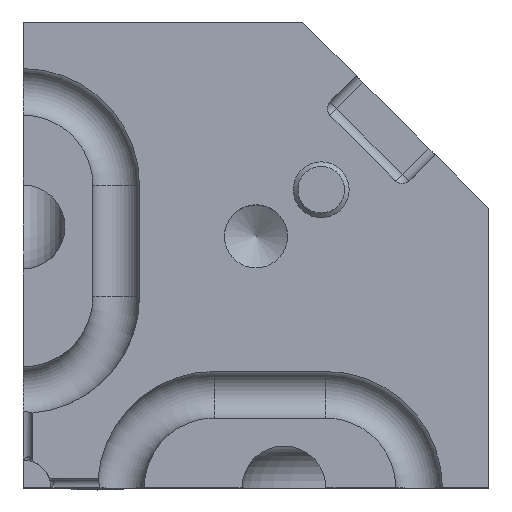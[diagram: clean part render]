
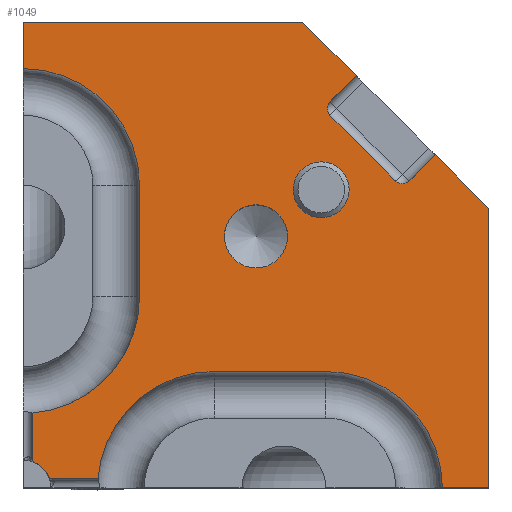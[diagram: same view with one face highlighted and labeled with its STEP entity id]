
A CAD part, top view. The second image highlights one B-rep face of the part: STEP entity #1049.
In plain terms, the highlighted planar face has unit normal (0, 0, 1).
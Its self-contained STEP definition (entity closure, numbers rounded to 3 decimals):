
#55=FACE_BOUND('',#201,.T.);
#56=FACE_BOUND('',#202,.T.);
#64=CIRCLE('',#1130,12.5);
#65=CIRCLE('',#1131,12.5);
#66=CIRCLE('',#1132,3.);
#67=CIRCLE('',#1133,12.5);
#68=CIRCLE('',#1134,12.5);
#69=CIRCLE('',#1135,1.);
#70=CIRCLE('',#1136,1.);
#71=CIRCLE('',#1137,3.39);
#72=CIRCLE('',#1138,3.);
#135=FACE_OUTER_BOUND('',#200,.T.);
#200=EDGE_LOOP('',(#713,#714,#715,#716,#717,#718,#719,#720,#721,#722,#723,
#724,#725,#726,#727,#728,#729,#730,#731,#732,#733,#734));
#201=EDGE_LOOP('',(#735));
#202=EDGE_LOOP('',(#736));
#272=B_SPLINE_CURVE_WITH_KNOTS('',3,(#1634,#1635,#1636,#1637,#1638,#1639,
#1640),.UNSPECIFIED.,.F.,.F.,(4,3,4),(-0.057,-0.028,
0.),.UNSPECIFIED.);
#273=B_SPLINE_CURVE_WITH_KNOTS('',3,(#1644,#1645,#1646,#1647,#1648,#1649,
#1650),.UNSPECIFIED.,.F.,.F.,(4,3,4),(-0.057,-0.028,
0.),.UNSPECIFIED.);
#285=LINE('',#1611,#363);
#286=LINE('',#1614,#364);
#291=LINE('',#1628,#369);
#292=LINE('',#1632,#370);
#293=LINE('',#1652,#371);
#294=LINE('',#1656,#372);
#295=LINE('',#1660,#373);
#296=LINE('',#1662,#374);
#297=LINE('',#1664,#375);
#298=LINE('',#1666,#376);
#299=LINE('',#1670,#377);
#300=LINE('',#1674,#378);
#301=LINE('',#1675,#379);
#363=VECTOR('',#1263,10.);
#364=VECTOR('',#1266,10.);
#369=VECTOR('',#1277,10.);
#370=VECTOR('',#1280,10.);
#371=VECTOR('',#1283,10.);
#372=VECTOR('',#1286,10.);
#373=VECTOR('',#1289,10.);
#374=VECTOR('',#1290,10.);
#375=VECTOR('',#1291,10.);
#376=VECTOR('',#1292,10.);
#377=VECTOR('',#1295,10.);
#378=VECTOR('',#1298,10.);
#379=VECTOR('',#1299,10.);
#439=VERTEX_POINT('',#1601);
#442=VERTEX_POINT('',#1606);
#443=VERTEX_POINT('',#1613);
#448=VERTEX_POINT('',#1625);
#449=VERTEX_POINT('',#1627);
#450=VERTEX_POINT('',#1629);
#451=VERTEX_POINT('',#1631);
#452=VERTEX_POINT('',#1633);
#453=VERTEX_POINT('',#1641);
#454=VERTEX_POINT('',#1643);
#455=VERTEX_POINT('',#1651);
#456=VERTEX_POINT('',#1653);
#457=VERTEX_POINT('',#1655);
#458=VERTEX_POINT('',#1657);
#459=VERTEX_POINT('',#1659);
#460=VERTEX_POINT('',#1661);
#461=VERTEX_POINT('',#1663);
#462=VERTEX_POINT('',#1665);
#463=VERTEX_POINT('',#1667);
#464=VERTEX_POINT('',#1669);
#465=VERTEX_POINT('',#1671);
#466=VERTEX_POINT('',#1673);
#467=VERTEX_POINT('',#1676);
#468=VERTEX_POINT('',#1678);
#545=EDGE_CURVE('',#442,#439,#285,.T.);
#546=EDGE_CURVE('',#443,#439,#286,.T.);
#552=EDGE_CURVE('',#442,#448,#64,.T.);
#553=EDGE_CURVE('',#448,#449,#291,.T.);
#554=EDGE_CURVE('',#449,#450,#65,.T.);
#555=EDGE_CURVE('',#450,#451,#292,.T.);
#556=EDGE_CURVE('',#451,#452,#272,.T.);
#557=EDGE_CURVE('',#452,#453,#66,.T.);
#558=EDGE_CURVE('',#453,#454,#273,.T.);
#559=EDGE_CURVE('',#454,#455,#293,.T.);
#560=EDGE_CURVE('',#455,#456,#67,.T.);
#561=EDGE_CURVE('',#456,#457,#294,.T.);
#562=EDGE_CURVE('',#457,#458,#68,.T.);
#563=EDGE_CURVE('',#459,#458,#295,.T.);
#564=EDGE_CURVE('',#459,#460,#296,.T.);
#565=EDGE_CURVE('',#461,#460,#297,.T.);
#566=EDGE_CURVE('',#461,#462,#298,.T.);
#567=EDGE_CURVE('',#463,#462,#69,.T.);
#568=EDGE_CURVE('',#463,#464,#299,.T.);
#569=EDGE_CURVE('',#465,#464,#70,.T.);
#570=EDGE_CURVE('',#465,#466,#300,.T.);
#571=EDGE_CURVE('',#443,#466,#301,.T.);
#572=EDGE_CURVE('',#467,#467,#71,.T.);
#573=EDGE_CURVE('',#468,#468,#72,.T.);
#713=ORIENTED_EDGE('',*,*,#545,.F.);
#714=ORIENTED_EDGE('',*,*,#552,.T.);
#715=ORIENTED_EDGE('',*,*,#553,.T.);
#716=ORIENTED_EDGE('',*,*,#554,.T.);
#717=ORIENTED_EDGE('',*,*,#555,.T.);
#718=ORIENTED_EDGE('',*,*,#556,.T.);
#719=ORIENTED_EDGE('',*,*,#557,.T.);
#720=ORIENTED_EDGE('',*,*,#558,.T.);
#721=ORIENTED_EDGE('',*,*,#559,.T.);
#722=ORIENTED_EDGE('',*,*,#560,.T.);
#723=ORIENTED_EDGE('',*,*,#561,.T.);
#724=ORIENTED_EDGE('',*,*,#562,.T.);
#725=ORIENTED_EDGE('',*,*,#563,.F.);
#726=ORIENTED_EDGE('',*,*,#564,.T.);
#727=ORIENTED_EDGE('',*,*,#565,.F.);
#728=ORIENTED_EDGE('',*,*,#566,.T.);
#729=ORIENTED_EDGE('',*,*,#567,.F.);
#730=ORIENTED_EDGE('',*,*,#568,.T.);
#731=ORIENTED_EDGE('',*,*,#569,.F.);
#732=ORIENTED_EDGE('',*,*,#570,.T.);
#733=ORIENTED_EDGE('',*,*,#571,.F.);
#734=ORIENTED_EDGE('',*,*,#546,.T.);
#735=ORIENTED_EDGE('',*,*,#572,.T.);
#736=ORIENTED_EDGE('',*,*,#573,.T.);
#1024=PLANE('',#1129);
#1049=ADVANCED_FACE('',(#135,#55,#56),#1024,.T.);
#1129=AXIS2_PLACEMENT_3D('',#1624,#1273,#1274);
#1130=AXIS2_PLACEMENT_3D('',#1626,#1275,#1276);
#1131=AXIS2_PLACEMENT_3D('',#1630,#1278,#1279);
#1132=AXIS2_PLACEMENT_3D('',#1642,#1281,#1282);
#1133=AXIS2_PLACEMENT_3D('',#1654,#1284,#1285);
#1134=AXIS2_PLACEMENT_3D('',#1658,#1287,#1288);
#1135=AXIS2_PLACEMENT_3D('',#1668,#1293,#1294);
#1136=AXIS2_PLACEMENT_3D('',#1672,#1296,#1297);
#1137=AXIS2_PLACEMENT_3D('',#1677,#1300,#1301);
#1138=AXIS2_PLACEMENT_3D('',#1679,#1302,#1303);
#1263=DIRECTION('',(0.,1.,0.));
#1266=DIRECTION('',(-1.,0.,0.));
#1273=DIRECTION('center_axis',(0.,0.,1.));
#1274=DIRECTION('ref_axis',(1.,0.,0.));
#1275=DIRECTION('center_axis',(0.,0.,-1.));
#1276=DIRECTION('ref_axis',(1.,0.,0.));
#1277=DIRECTION('',(0.,-1.,0.));
#1278=DIRECTION('center_axis',(0.,0.,-1.));
#1279=DIRECTION('ref_axis',(1.,0.,0.));
#1280=DIRECTION('',(0.,-1.,0.));
#1281=DIRECTION('center_axis',(0.,0.,-1.));
#1282=DIRECTION('ref_axis',(-1.,0.,0.));
#1283=DIRECTION('',(1.,0.,0.));
#1284=DIRECTION('center_axis',(0.,0.,-1.));
#1285=DIRECTION('ref_axis',(1.,0.,0.));
#1286=DIRECTION('',(1.,0.,0.));
#1287=DIRECTION('center_axis',(0.,0.,-1.));
#1288=DIRECTION('ref_axis',(1.,0.,0.));
#1289=DIRECTION('',(-1.,0.,0.));
#1290=DIRECTION('',(0.,1.,0.));
#1291=DIRECTION('',(0.707,-0.707,0.));
#1292=DIRECTION('',(-0.707,-0.707,0.));
#1293=DIRECTION('center_axis',(0.,0.,1.));
#1294=DIRECTION('ref_axis',(0.,1.,0.));
#1295=DIRECTION('',(-0.707,0.707,0.));
#1296=DIRECTION('center_axis',(0.,0.,1.));
#1297=DIRECTION('ref_axis',(0.,1.,0.));
#1298=DIRECTION('',(0.707,0.707,0.));
#1299=DIRECTION('',(0.707,-0.707,0.));
#1300=DIRECTION('center_axis',(0.,0.,-1.));
#1301=DIRECTION('ref_axis',(1.,0.,0.));
#1302=DIRECTION('center_axis',(0.,0.,-1.));
#1303=DIRECTION('ref_axis',(-1.,0.,0.));
#1601=CARTESIAN_POINT('',(0.05,50.,0.));
#1606=CARTESIAN_POINT('',(0.05,45.,0.));
#1611=CARTESIAN_POINT('',(0.05,0.,0.));
#1613=CARTESIAN_POINT('',(30.,50.,0.));
#1614=CARTESIAN_POINT('',(25.,50.,0.));
#1624=CARTESIAN_POINT('Origin',(0.,0.,
0.));
#1625=CARTESIAN_POINT('',(12.5,32.5,0.));
#1626=CARTESIAN_POINT('Origin',(0.,32.5,0.));
#1627=CARTESIAN_POINT('',(12.5,20.5,0.));
#1628=CARTESIAN_POINT('',(12.5,20.5,0.));
#1629=CARTESIAN_POINT('',(1.,8.04,0.));
#1630=CARTESIAN_POINT('Origin',(0.,20.5,
0.));
#1631=CARTESIAN_POINT('',(1.,3.162,0.));
#1632=CARTESIAN_POINT('',(1.,0.,0.));
#1633=CARTESIAN_POINT('',(1.286,2.711,0.));
#1634=CARTESIAN_POINT('Ctrl Pts',(1.,3.162,0.));
#1635=CARTESIAN_POINT('Ctrl Pts',(1.,3.068,0.));
#1636=CARTESIAN_POINT('Ctrl Pts',(1.027,2.974,0.));
#1637=CARTESIAN_POINT('Ctrl Pts',(1.077,2.895,0.));
#1638=CARTESIAN_POINT('Ctrl Pts',(1.128,2.816,0.));
#1639=CARTESIAN_POINT('Ctrl Pts',(1.201,2.751,0.));
#1640=CARTESIAN_POINT('Ctrl Pts',(1.286,2.711,0.));
#1641=CARTESIAN_POINT('',(2.711,1.286,0.));
#1642=CARTESIAN_POINT('Origin',(0.,0.,0.));
#1643=CARTESIAN_POINT('',(3.162,1.,0.));
#1644=CARTESIAN_POINT('Ctrl Pts',(2.711,1.286,0.));
#1645=CARTESIAN_POINT('Ctrl Pts',(2.751,1.201,0.));
#1646=CARTESIAN_POINT('Ctrl Pts',(2.816,1.128,0.));
#1647=CARTESIAN_POINT('Ctrl Pts',(2.895,1.077,0.));
#1648=CARTESIAN_POINT('Ctrl Pts',(2.974,1.027,0.));
#1649=CARTESIAN_POINT('Ctrl Pts',(3.068,1.,0.));
#1650=CARTESIAN_POINT('Ctrl Pts',(3.162,1.,0.));
#1651=CARTESIAN_POINT('',(8.04,1.,0.));
#1652=CARTESIAN_POINT('',(0.,1.,0.));
#1653=CARTESIAN_POINT('',(20.5,12.5,0.));
#1654=CARTESIAN_POINT('Origin',(20.5,0.,0.));
#1655=CARTESIAN_POINT('',(32.5,12.5,0.));
#1656=CARTESIAN_POINT('',(32.5,12.5,0.));
#1657=CARTESIAN_POINT('',(45.,0.05,0.));
#1658=CARTESIAN_POINT('Origin',(32.5,0.,
0.));
#1659=CARTESIAN_POINT('',(50.,0.05,0.));
#1660=CARTESIAN_POINT('',(0.,0.05,0.));
#1661=CARTESIAN_POINT('',(50.,30.,0.));
#1662=CARTESIAN_POINT('',(50.,-25.,0.));
#1663=CARTESIAN_POINT('',(44.243,35.757,0.));
#1664=CARTESIAN_POINT('',(40.,40.,0.));
#1665=CARTESIAN_POINT('',(41.414,32.929,0.));
#1666=CARTESIAN_POINT('',(44.243,35.757,0.));
#1667=CARTESIAN_POINT('',(40.,32.929,0.));
#1668=CARTESIAN_POINT('Origin',(40.707,33.636,0.));
#1669=CARTESIAN_POINT('',(32.929,40.,0.));
#1670=CARTESIAN_POINT('',(36.464,36.464,0.));
#1671=CARTESIAN_POINT('',(32.929,41.414,0.));
#1672=CARTESIAN_POINT('Origin',(33.636,40.707,0.));
#1673=CARTESIAN_POINT('',(35.757,44.243,0.));
#1674=CARTESIAN_POINT('',(35.757,44.243,0.));
#1675=CARTESIAN_POINT('',(40.,40.,0.));
#1676=CARTESIAN_POINT('',(21.61,27.,0.));
#1677=CARTESIAN_POINT('Origin',(25.,27.,0.));
#1678=CARTESIAN_POINT('',(35.,32.,0.));
#1679=CARTESIAN_POINT('Origin',(32.,32.,0.));
